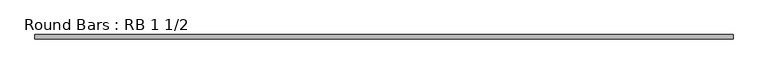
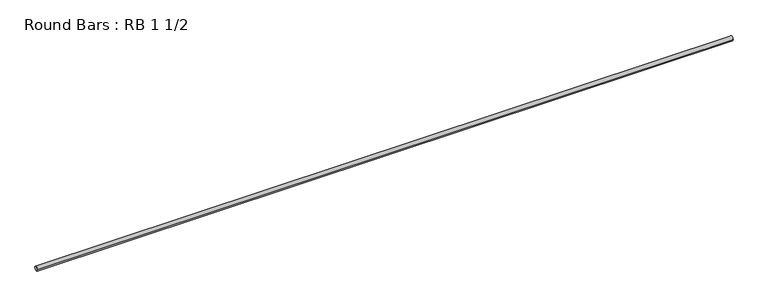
"""IFC4 building model written with IfcOpenShell, lengths in millimetres: member geometry, Round Bars : RB 1 1/2."""

from ifc_helpers import new_model, si_unit, point, frame, origin, origin_2d, place, context, project, spatial, circle_curve, trimmed, segment, composite_curve, outline, extrude, source, transform, mapped, element, save


def round_bars_rb_1_1_2_545409a3(model_context):
    return source(origin(), model_context, "Body", "SweptSolid", [
        extrude(outline(composite_curve([segment(trimmed(circle_curve(origin_2d(), 19.05), [point((19.05, 0.0))], [point((-19.05, 0.0))], False, "CARTESIAN"), True, "CONTINUOUS"), segment(trimmed(circle_curve(origin_2d(), 19.05), [point((-19.05, 0.0))], [point((19.05, 0.0))], False, "CARTESIAN"), True, "CONTINUOUS")], self_intersect=False)), frame((-3144.047894, 0.0, 0.0), z_axis=(1.0, 0.0, 0.0), x_axis=(0.0, 1.0, 0.0)), (0.0, 0.0, 1.0), 5979.1933919),
    ])


if __name__ == "__main__":
    model = new_model("IFC4")
    model_context = context("Model", 3, world=origin())
    ifc_project = project(units=[si_unit("LENGTHUNIT", "METRE", prefix="MILLI")], contexts=[model_context])
    site = spatial("IfcSite", under=ifc_project)
    building = spatial("IfcBuilding", under=site)
    placement = place(None, origin())
    round_bars_rb_1_1_2_shape = round_bars_rb_1_1_2_545409a3(model_context)
    element("IfcMember", 1, ObjectType="Round Bars : RB 1 1/2", at=placement, inside=building, context=model_context, shape_type="MappedRepresentation", body=[
        mapped(round_bars_rb_1_1_2_shape, transform((0.0, 0.0, 0.0), x_axis=(1.0, 0.0, 0.0), y_axis=(0.0, 1.0, 0.0), z_axis=(0.0, 0.0, 1.0))),
    ])
    save(model, "model.ifc")
